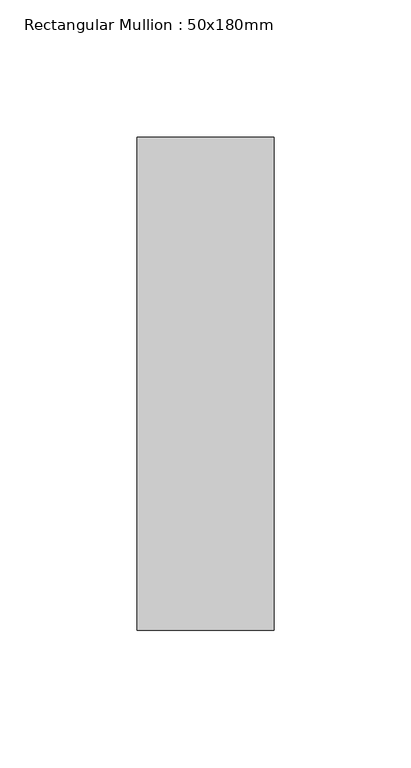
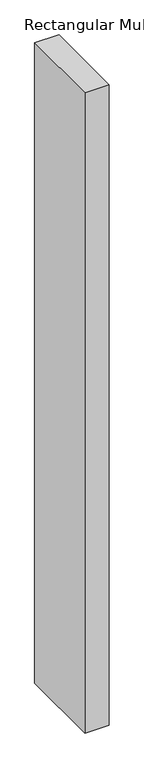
"""IFC4 building model written with IfcOpenShell, lengths in millimetres: member geometry, Rectangular Mullion : 50x180mm."""

from ifc_helpers import new_model, si_unit, frame, origin, place, context, project, spatial, polyline, outline, extrude, source, transform, mapped, element, save


def rectangular_mullion_50x180mm_f65e5b43(model_context):
    return source(origin(), model_context, "Body", "SweptSolid", [
        extrude(outline(polyline([(0.0, 90.0), (0.0, -90.0), (-50.0, -90.0), (-50.0, 90.0), (0.0, 90.0)])), frame((0.0, 0.0, -1401.4250003), z_axis=(0.0, 0.0, 1.0), x_axis=(1.0, 0.0, 0.0)), (0.0, 0.0, 1.0), 1401.4250003),
    ])


if __name__ == "__main__":
    model = new_model("IFC4")
    model_context = context("Model", 3, world=origin())
    ifc_project = project(units=[si_unit("LENGTHUNIT", "METRE", prefix="MILLI")], contexts=[model_context])
    site = spatial("IfcSite", under=ifc_project)
    building = spatial("IfcBuilding", under=site)
    placement = place(None, origin())
    rectangular_mullion_50x180mm_shape = rectangular_mullion_50x180mm_f65e5b43(model_context)
    element("IfcMember", 1, ObjectType="Rectangular Mullion : 50x180mm", at=placement, inside=building, context=model_context, shape_type="MappedRepresentation", body=[
        mapped(rectangular_mullion_50x180mm_shape, transform((0.0, 0.0, 0.0), x_axis=(1.0, 0.0, 0.0), y_axis=(0.0, 1.0, 0.0), z_axis=(0.0, 0.0, 1.0))),
    ])
    save(model, "model.ifc")
